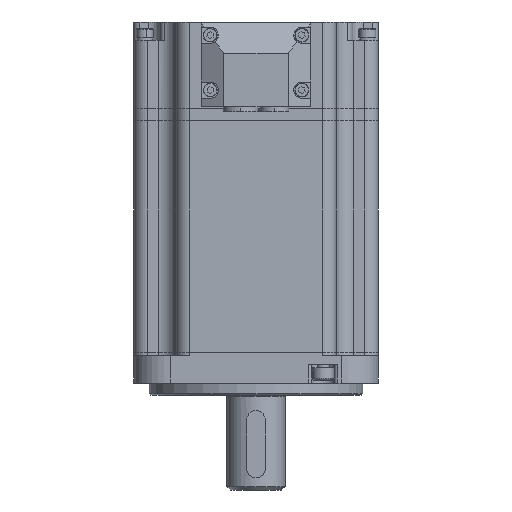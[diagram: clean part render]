
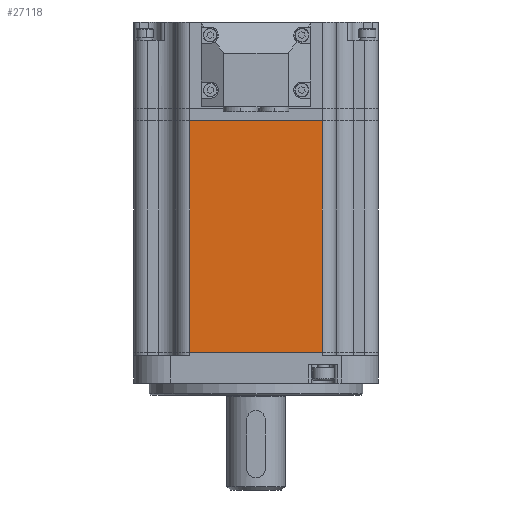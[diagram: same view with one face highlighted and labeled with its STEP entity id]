
A CAD part, front view. The second image highlights one B-rep face of the part: STEP entity #27118.
In plain terms, the highlighted planar face has unit normal (0, -1, 0) as drawn and (-1, 0, 0) by its records, which use the part's own axes.
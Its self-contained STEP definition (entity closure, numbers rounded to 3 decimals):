
#1469 = CARTESIAN_POINT ( 'NONE',  ( -40., 21.75, 0. ) ) ;
#1885 = DIRECTION ( 'NONE',  ( 0., -1., 0. ) ) ;
#2630 = CARTESIAN_POINT ( 'NONE',  ( -40., -21.75, 0. ) ) ;
#3130 = DIRECTION ( 'NONE',  ( 0., -1., 0. ) ) ;
#4768 = CARTESIAN_POINT ( 'NONE',  ( -40., 26.25, 75.9 ) ) ;
#6013 = VECTOR ( 'NONE', #3130, 1000. ) ;
#6094 = EDGE_CURVE ( 'NONE', #28707, #29515, #31894, .T. ) ;
#6116 = DIRECTION ( 'NONE',  ( 0., 0., -1. ) ) ;
#6492 = DIRECTION ( 'NONE',  ( 1., 0., 0. ) ) ;
#7953 = FACE_OUTER_BOUND ( 'NONE', #29999, .T. ) ;
#11445 = VECTOR ( 'NONE', #1885, 1000. ) ;
#12687 = CARTESIAN_POINT ( 'NONE',  ( -40., 26.25, 75.9 ) ) ;
#14576 = VECTOR ( 'NONE', #24007, 1000. ) ;
#17325 = ORIENTED_EDGE ( 'NONE', *, *, #6094, .T. ) ;
#17457 = EDGE_CURVE ( 'NONE', #19167, #17816, #28433, .T. ) ;
#17477 = CARTESIAN_POINT ( 'NONE',  ( -40., 21.75, 75.9 ) ) ;
#17816 = VERTEX_POINT ( 'NONE', #28358 ) ;
#18840 = CARTESIAN_POINT ( 'NONE',  ( -40., 26.25, 0. ) ) ;
#18917 = PLANE ( 'NONE',  #30867 ) ;
#19167 = VERTEX_POINT ( 'NONE', #17477 ) ;
#20919 = EDGE_CURVE ( 'NONE', #29515, #17816, #23844, .T. ) ;
#22655 = VECTOR ( 'NONE', #6116, 1000. ) ;
#23844 = LINE ( 'NONE', #39535, #14576 ) ;
#24007 = DIRECTION ( 'NONE',  ( 0., 0., 1. ) ) ;
#24113 = ORIENTED_EDGE ( 'NONE', *, *, #17457, .F. ) ;
#26077 = ORIENTED_EDGE ( 'NONE', *, *, #26588, .T. ) ;
#26588 = EDGE_CURVE ( 'NONE', #19167, #28707, #39236, .T. ) ;
#27118 = ADVANCED_FACE ( 'NONE', ( #7953 ), #18917, .F. ) ;
#28322 = DIRECTION ( 'NONE',  ( 0., 1., 0. ) ) ;
#28358 = CARTESIAN_POINT ( 'NONE',  ( -40., -21.75, 75.9 ) ) ;
#28433 = LINE ( 'NONE', #4768, #11445 ) ;
#28707 = VERTEX_POINT ( 'NONE', #1469 ) ;
#29515 = VERTEX_POINT ( 'NONE', #2630 ) ;
#29999 = EDGE_LOOP ( 'NONE', ( #24113, #26077, #17325, #32216 ) ) ;
#30867 = AXIS2_PLACEMENT_3D ( 'NONE', #12687, #6492, #28322 ) ;
#31068 = CARTESIAN_POINT ( 'NONE',  ( -40., 21.75, 75.9 ) ) ;
#31894 = LINE ( 'NONE', #18840, #6013 ) ;
#32216 = ORIENTED_EDGE ( 'NONE', *, *, #20919, .T. ) ;
#39236 = LINE ( 'NONE', #31068, #22655 ) ;
#39535 = CARTESIAN_POINT ( 'NONE',  ( -40., -21.75, 75.9 ) ) ;
